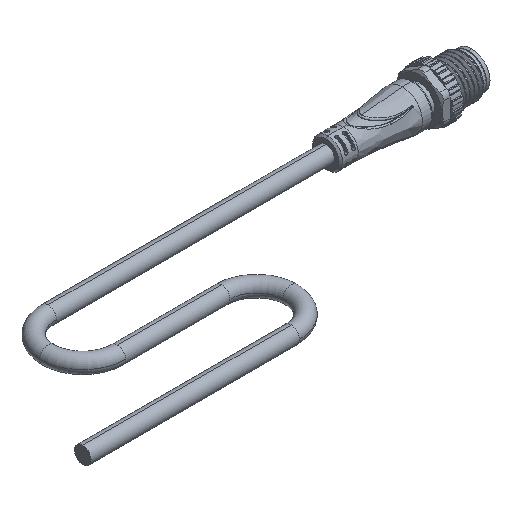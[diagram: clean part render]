
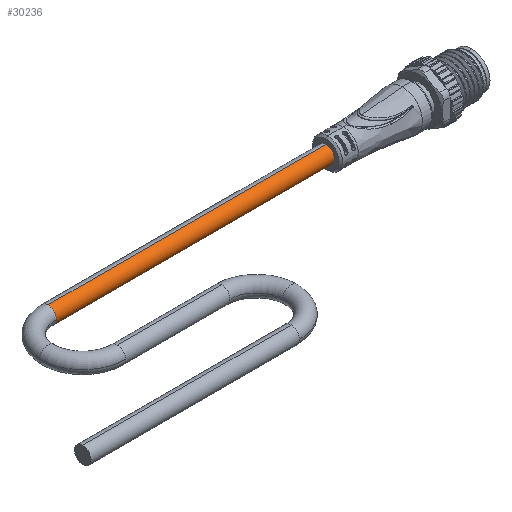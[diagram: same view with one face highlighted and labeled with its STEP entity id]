
A CAD part, isometric view. The second image highlights one B-rep face of the part: STEP entity #30236.
In plain terms, the highlighted cylindrical face has radius 2.4 mm (diameter 4.8 mm), a partial arc.
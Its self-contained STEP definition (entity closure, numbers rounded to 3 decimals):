
#124 = EDGE_CURVE ( 'NONE', #26203, #12479, #7240, .T. ) ;
#1110 = ORIENTED_EDGE ( 'NONE', *, *, #14371, .T. ) ;
#1613 = VERTEX_POINT ( 'NONE', #21408 ) ;
#1924 = FACE_OUTER_BOUND ( 'NONE', #6007, .T. ) ;
#2316 = AXIS2_PLACEMENT_3D ( 'NONE', #3257, #22990, #25206 ) ;
#3257 = CARTESIAN_POINT ( 'NONE',  ( 0., 40., 0. ) ) ;
#3320 = CARTESIAN_POINT ( 'NONE',  ( 0., 37.6, 0. ) ) ;
#4075 = CARTESIAN_POINT ( 'NONE',  ( -2.4, 40., -90. ) ) ;
#4105 = EDGE_CURVE ( 'NONE', #9240, #26203, #19532, .T. ) ;
#4288 = ORIENTED_EDGE ( 'NONE', *, *, #124, .F. ) ;
#4713 = DIRECTION ( 'NONE',  ( 0., 0., -1. ) ) ;
#5019 = DIRECTION ( 'NONE',  ( -1., 0., 0. ) ) ;
#6007 = EDGE_LOOP ( 'NONE', ( #25637, #1110, #10589, #29992, #4288 ) ) ;
#7021 = LINE ( 'NONE', #21718, #15011 ) ;
#7240 = CIRCLE ( 'NONE', #16817, 2.4 ) ;
#9034 = AXIS2_PLACEMENT_3D ( 'NONE', #21845, #12059, #9678 ) ;
#9240 = VERTEX_POINT ( 'NONE', #21980 ) ;
#9678 = DIRECTION ( 'NONE',  ( -1., 0., 0. ) ) ;
#10589 = ORIENTED_EDGE ( 'NONE', *, *, #18509, .T. ) ;
#10778 = VERTEX_POINT ( 'NONE', #3320 ) ;
#11237 = CYLINDRICAL_SURFACE ( 'NONE', #16285, 2.4 ) ;
#12059 = DIRECTION ( 'NONE',  ( 0., 0., -1. ) ) ;
#12479 = VERTEX_POINT ( 'NONE', #4075 ) ;
#14371 = EDGE_CURVE ( 'NONE', #9240, #10778, #17686, .T. ) ;
#15011 = VECTOR ( 'NONE', #16815, 1000. ) ;
#16285 = AXIS2_PLACEMENT_3D ( 'NONE', #30636, #18510, #16758 ) ;
#16758 = DIRECTION ( 'NONE',  ( -1., 0., 0. ) ) ;
#16815 = DIRECTION ( 'NONE',  ( 0., 0., -1. ) ) ;
#16817 = AXIS2_PLACEMENT_3D ( 'NONE', #30911, #4713, #5019 ) ;
#17686 = CIRCLE ( 'NONE', #9034, 2.4 ) ;
#18509 = EDGE_CURVE ( 'NONE', #10778, #1613, #21465, .T. ) ;
#18510 = DIRECTION ( 'NONE',  ( 0., 0., -1. ) ) ;
#19532 = LINE ( 'NONE', #21736, #24657 ) ;
#21408 = CARTESIAN_POINT ( 'NONE',  ( -2.4, 40., 0. ) ) ;
#21465 = CIRCLE ( 'NONE', #2316, 2.4 ) ;
#21693 = EDGE_CURVE ( 'NONE', #1613, #12479, #7021, .T. ) ;
#21718 = CARTESIAN_POINT ( 'NONE',  ( -2.4, 40., 0. ) ) ;
#21736 = CARTESIAN_POINT ( 'NONE',  ( 2.4, 40., 0. ) ) ;
#21845 = CARTESIAN_POINT ( 'NONE',  ( 0., 40., 0. ) ) ;
#21980 = CARTESIAN_POINT ( 'NONE',  ( 2.4, 40., 0. ) ) ;
#22034 = DIRECTION ( 'NONE',  ( 0., 0., -1. ) ) ;
#22990 = DIRECTION ( 'NONE',  ( 0., 0., -1. ) ) ;
#24657 = VECTOR ( 'NONE', #22034, 1000. ) ;
#25206 = DIRECTION ( 'NONE',  ( -1., 0., 0. ) ) ;
#25637 = ORIENTED_EDGE ( 'NONE', *, *, #4105, .F. ) ;
#26203 = VERTEX_POINT ( 'NONE', #28461 ) ;
#28461 = CARTESIAN_POINT ( 'NONE',  ( 2.4, 40., -90. ) ) ;
#29992 = ORIENTED_EDGE ( 'NONE', *, *, #21693, .T. ) ;
#30236 = ADVANCED_FACE ( 'NONE', ( #1924 ), #11237, .T. ) ;
#30636 = CARTESIAN_POINT ( 'NONE',  ( 0., 40., 0. ) ) ;
#30911 = CARTESIAN_POINT ( 'NONE',  ( 0., 40., -90. ) ) ;
